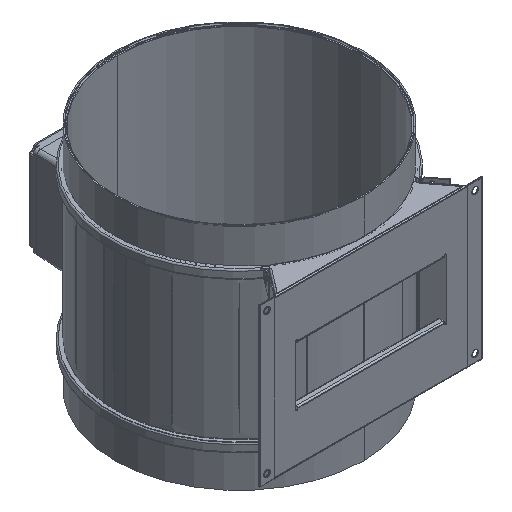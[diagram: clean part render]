
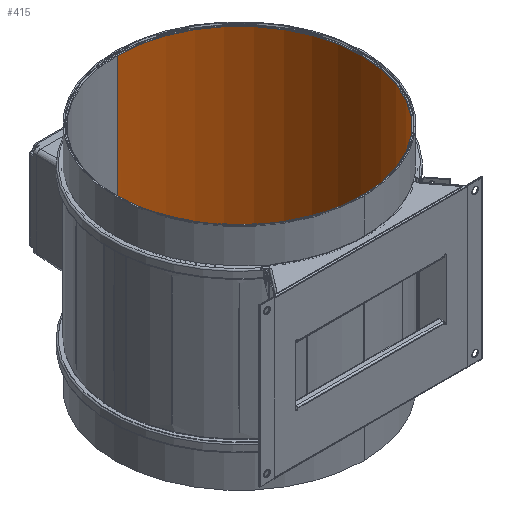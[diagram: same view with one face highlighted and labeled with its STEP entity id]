
A CAD part, isometric view. The second image highlights one B-rep face of the part: STEP entity #415.
In plain terms, the highlighted cylindrical face has radius 173 mm (diameter 346 mm), a partial arc.
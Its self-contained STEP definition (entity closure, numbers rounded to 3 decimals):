
#36 = EDGE_CURVE ( 'NONE', #22366, #22993, #5393, .T. ) ;
#63 = EDGE_CURVE ( 'NONE', #22366, #22233, #5360, .T. ) ;
#415 = ADVANCED_FACE ( 'NONE', ( #39877 ), #39875, .F. ) ;
#3336 = CARTESIAN_POINT ( 'NONE',  ( 0., 0., 0. ) ) ;
#3339 = DIRECTION ( 'NONE',  ( 0., 0., 1. ) ) ;
#3348 = DIRECTION ( 'NONE',  ( 0., -1., 0. ) ) ;
#4006 = DIRECTION ( 'NONE',  ( 0., 1., 0. ) ) ;
#4008 = DIRECTION ( 'NONE',  ( 0., 0., -1. ) ) ;
#4010 = CARTESIAN_POINT ( 'NONE',  ( 0., 0., -421.197 ) ) ;
#4310 = DIRECTION ( 'NONE',  ( 0., 0., 1. ) ) ;
#4316 = CARTESIAN_POINT ( 'NONE',  ( 0., 173., 0. ) ) ;
#5360 = CIRCLE ( 'NONE', #16728, 173. ) ;
#5391 = VECTOR ( 'NONE', #4310, 1000. ) ;
#5393 = LINE ( 'NONE', #4316, #5391 ) ;
#10603 = CARTESIAN_POINT ( 'NONE',  ( 173., 0., -99.197 ) ) ;
#10604 = CARTESIAN_POINT ( 'NONE',  ( 0., 173., -319.697 ) ) ;
#10605 = CARTESIAN_POINT ( 'NONE',  ( 6.5, 172.878, -319.697 ) ) ;
#10775 = CARTESIAN_POINT ( 'NONE',  ( 7.5, 172.837, -307.197 ) ) ;
#10791 = CARTESIAN_POINT ( 'NONE',  ( 0., 173., -99.197 ) ) ;
#10881 = CARTESIAN_POINT ( 'NONE',  ( 7.5, 172.837, -318.697 ) ) ;
#11157 = CARTESIAN_POINT ( 'NONE',  ( 0., 173., -421.197 ) ) ;
#11167 = CARTESIAN_POINT ( 'NONE',  ( 0., 173., -299.697 ) ) ;
#11331 = CARTESIAN_POINT ( 'NONE',  ( 0., -173., -421.197 ) ) ;
#11378 = CARTESIAN_POINT ( 'NONE',  ( 0., -173., -99.197 ) ) ;
#11928 = AXIS2_PLACEMENT_3D ( 'NONE', #18700, #18699, #18698 ) ;
#11955 = AXIS2_PLACEMENT_3D ( 'NONE', #18801, #18800, #18799 ) ;
#11981 = AXIS2_PLACEMENT_3D ( 'NONE', #19009, #19008, #19007 ) ;
#12732 = VECTOR ( 'NONE', #18655, 1000. ) ;
#12737 = LINE ( 'NONE', #18656, #12732 ) ;
#12753 = CIRCLE ( 'NONE', #11928, 173. ) ;
#12934 = VECTOR ( 'NONE', #18830, 1000. ) ;
#12938 = LINE ( 'NONE', #18831, #12934 ) ;
#12942 = CIRCLE ( 'NONE', #11955, 173. ) ;
#13051 = CIRCLE ( 'NONE', #11981, 173. ) ;
#13158 = LINE ( 'NONE', #18915, #13162 ) ;
#13162 = VECTOR ( 'NONE', #19030, 1000. ) ;
#13888 = EDGE_CURVE ( 'NONE', #22802, #22355, #21365, .T. ) ;
#13893 = EDGE_CURVE ( 'NONE', #22665, #22802, #13158, .T. ) ;
#14146 = EDGE_CURVE ( 'NONE', #22994, #22783, #13051, .T. ) ;
#14337 = EDGE_CURVE ( 'NONE', #22355, #22783, #12938, .T. ) ;
#14362 = EDGE_CURVE ( 'NONE', #22992, #22665, #21557, .T. ) ;
#14365 = EDGE_CURVE ( 'NONE', #22993, #22992, #12942, .T. ) ;
#14775 = AXIS2_PLACEMENT_3D ( 'NONE', #3336, #3339, #3348 ) ;
#16728 = AXIS2_PLACEMENT_3D ( 'NONE', #4010, #4008, #4006 ) ;
#16818 = EDGE_CURVE ( 'NONE', #22186, #22994, #12753, .T. ) ;
#16982 = EDGE_CURVE ( 'NONE', #22233, #22186, #12737, .T. ) ;
#18655 = DIRECTION ( 'NONE',  ( 0., 0., 1. ) ) ;
#18656 = CARTESIAN_POINT ( 'NONE',  ( 0., -173., 0. ) ) ;
#18698 = DIRECTION ( 'NONE',  ( 1., 0., 0. ) ) ;
#18699 = DIRECTION ( 'NONE',  ( 0., 0., 1. ) ) ;
#18700 = CARTESIAN_POINT ( 'NONE',  ( 0., 0., -99.197 ) ) ;
#18775 = CARTESIAN_POINT ( 'NONE',  ( 6.511, 172.878, -303.442 ) ) ;
#18782 = CARTESIAN_POINT ( 'NONE',  ( 0., 173., -299.697 ) ) ;
#18799 = DIRECTION ( 'NONE',  ( 0., 1., 0. ) ) ;
#18800 = DIRECTION ( 'NONE',  ( 0., 0., -1. ) ) ;
#18801 = CARTESIAN_POINT ( 'NONE',  ( 0., 0., -319.697 ) ) ;
#18804 = CARTESIAN_POINT ( 'NONE',  ( 7.5, 172.837, -318.697 ) ) ;
#18805 = CARTESIAN_POINT ( 'NONE',  ( 7.5, 172.837, -318.961 ) ) ;
#18806 = CARTESIAN_POINT ( 'NONE',  ( 7.391, 172.842, -319.22 ) ) ;
#18807 = CARTESIAN_POINT ( 'NONE',  ( 7.114, 172.854, -319.497 ) ) ;
#18808 = CARTESIAN_POINT ( 'NONE',  ( 7.004, 172.858, -319.571 ) ) ;
#18810 = CARTESIAN_POINT ( 'NONE',  ( 6.5, 172.878, -319.697 ) ) ;
#18820 = CARTESIAN_POINT ( 'NONE',  ( 6.632, 172.873, -319.697 ) ) ;
#18821 = CARTESIAN_POINT ( 'NONE',  ( 6.762, 172.868, -319.671 ) ) ;
#18830 = DIRECTION ( 'NONE',  ( 0., 0., 1. ) ) ;
#18831 = CARTESIAN_POINT ( 'NONE',  ( 0., 173., 0. ) ) ;
#18832 = CARTESIAN_POINT ( 'NONE',  ( 6.741, 172.869, -303.873 ) ) ;
#18835 = CARTESIAN_POINT ( 'NONE',  ( 7.023, 172.857, -304.554 ) ) ;
#18883 = CARTESIAN_POINT ( 'NONE',  ( 3.755, 172.959, -300.7 ) ) ;
#18884 = CARTESIAN_POINT ( 'NONE',  ( 7.107, 172.854, -304.788 ) ) ;
#18885 = CARTESIAN_POINT ( 'NONE',  ( 7.249, 172.848, -305.259 ) ) ;
#18889 = CARTESIAN_POINT ( 'NONE',  ( 3.323, 172.968, -300.469 ) ) ;
#18892 = CARTESIAN_POINT ( 'NONE',  ( 7.309, 172.846, -305.496 ) ) ;
#18897 = CARTESIAN_POINT ( 'NONE',  ( 7.5, 172.837, -307.197 ) ) ;
#18915 = CARTESIAN_POINT ( 'NONE',  ( 7.5, 172.837, -738.867 ) ) ;
#18921 = CARTESIAN_POINT ( 'NONE',  ( 2.881, 172.976, -300.26 ) ) ;
#18946 = CARTESIAN_POINT ( 'NONE',  ( 4.96, 172.929, -301.55 ) ) ;
#18949 = CARTESIAN_POINT ( 'NONE',  ( 0.985, 172.998, -299.746 ) ) ;
#18959 = CARTESIAN_POINT ( 'NONE',  ( 7.5, 172.837, -306.702 ) ) ;
#18986 = CARTESIAN_POINT ( 'NONE',  ( 0.495, 173., -299.697 ) ) ;
#18990 = CARTESIAN_POINT ( 'NONE',  ( 4.582, 172.94, -301.239 ) ) ;
#19007 = DIRECTION ( 'NONE',  ( 1., 0., 0. ) ) ;
#19008 = DIRECTION ( 'NONE',  ( 0., 0., 1. ) ) ;
#19009 = CARTESIAN_POINT ( 'NONE',  ( 0., 0., -99.197 ) ) ;
#19011 = CARTESIAN_POINT ( 'NONE',  ( 7.451, 172.839, -306.215 ) ) ;
#19030 = DIRECTION ( 'NONE',  ( 0., 0., 1. ) ) ;
#19083 = CARTESIAN_POINT ( 'NONE',  ( 5.967, 172.897, -302.627 ) ) ;
#19101 = CARTESIAN_POINT ( 'NONE',  ( 1.712, 172.992, -299.891 ) ) ;
#19104 = CARTESIAN_POINT ( 'NONE',  ( 5.651, 172.908, -302.242 ) ) ;
#19116 = CARTESIAN_POINT ( 'NONE',  ( 3.968, 172.955, -300.828 ) ) ;
#19124 = CARTESIAN_POINT ( 'NONE',  ( 1.952, 172.989, -299.951 ) ) ;
#19148 = CARTESIAN_POINT ( 'NONE',  ( 2.421, 172.983, -300.094 ) ) ;
#21365 = B_SPLINE_CURVE_WITH_KNOTS ( 'NONE', 3,
 ( #18897, #18959, #19011, #18892, #18885, #18884, #18835, #18832, #18775, #19083, #19104, #18946, #18990, #19116, #18883, #18889, #18921, #19148, #19124, #19101, #18949, #18986, #18782 ),
 .UNSPECIFIED., .F., .F.,
 ( 4, 2, 2, 2, 2, 2, 2, 2, 1, 2, 2, 4 ),
 ( 0., 0.001, 0.002, 0.003, 0.004, 0.006, 0.007, 0.008, 0.009, 0.01, 0.01, 0.012 ),
 .UNSPECIFIED. ) ;
#21557 = B_SPLINE_CURVE_WITH_KNOTS ( 'NONE', 3,
 ( #18810, #18820, #18821, #18808, #18807, #18806, #18805, #18804 ),
 .UNSPECIFIED., .F., .F.,
 ( 4, 2, 2, 4 ),
 ( 0., 0., 0.001, 0.002 ),
 .UNSPECIFIED. ) ;
#22186 = VERTEX_POINT ( 'NONE', #11378 ) ;
#22233 = VERTEX_POINT ( 'NONE', #11331 ) ;
#22355 = VERTEX_POINT ( 'NONE', #11167 ) ;
#22366 = VERTEX_POINT ( 'NONE', #11157 ) ;
#22665 = VERTEX_POINT ( 'NONE', #10881 ) ;
#22783 = VERTEX_POINT ( 'NONE', #10791 ) ;
#22802 = VERTEX_POINT ( 'NONE', #10775 ) ;
#22992 = VERTEX_POINT ( 'NONE', #10605 ) ;
#22993 = VERTEX_POINT ( 'NONE', #10604 ) ;
#22994 = VERTEX_POINT ( 'NONE', #10603 ) ;
#24236 = ORIENTED_EDGE ( 'NONE', *, *, #36, .F. ) ;
#24237 = ORIENTED_EDGE ( 'NONE', *, *, #63, .T. ) ;
#24238 = ORIENTED_EDGE ( 'NONE', *, *, #16982, .T. ) ;
#24239 = ORIENTED_EDGE ( 'NONE', *, *, #16818, .T. ) ;
#24240 = ORIENTED_EDGE ( 'NONE', *, *, #14146, .T. ) ;
#24241 = ORIENTED_EDGE ( 'NONE', *, *, #14337, .F. ) ;
#24242 = ORIENTED_EDGE ( 'NONE', *, *, #13888, .F. ) ;
#24243 = ORIENTED_EDGE ( 'NONE', *, *, #13893, .F. ) ;
#24244 = ORIENTED_EDGE ( 'NONE', *, *, #14362, .F. ) ;
#24245 = ORIENTED_EDGE ( 'NONE', *, *, #14365, .F. ) ;
#26802 = EDGE_LOOP ( 'NONE', ( #24236, #24237, #24238, #24239, #24240, #24241, #24242, #24243, #24244, #24245 ) ) ;
#39875 = CYLINDRICAL_SURFACE ( 'NONE', #14775, 173. ) ;
#39877 = FACE_OUTER_BOUND ( 'NONE', #26802, .T. ) ;
